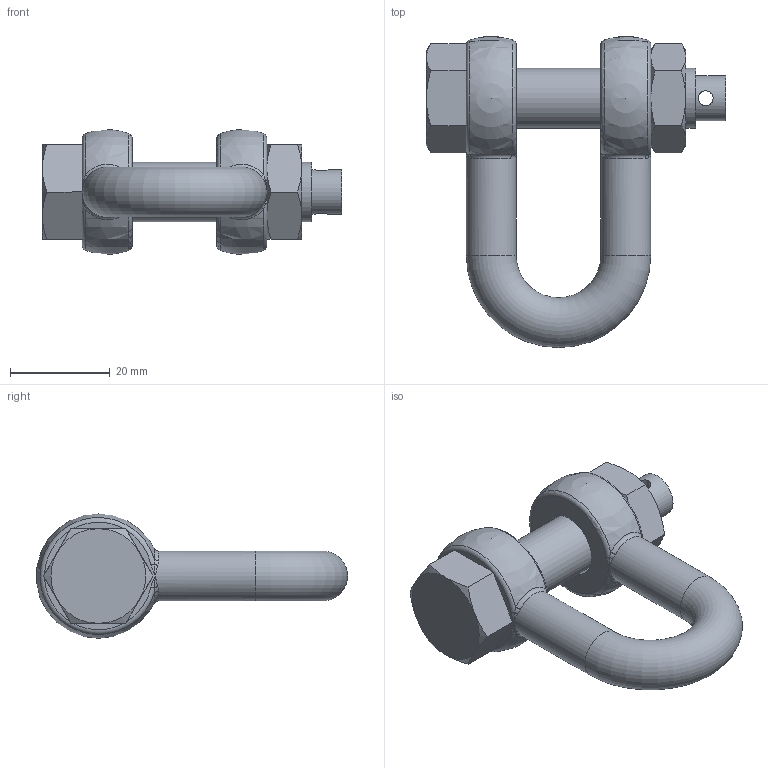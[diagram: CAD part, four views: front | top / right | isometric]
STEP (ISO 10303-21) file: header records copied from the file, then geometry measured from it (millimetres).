
FILE_DESCRIPTION(/* description */ (''),/* implementation_level */ '2;1');
FILE_NAME(/* name */ 'C:\Users\D\Documents\Inventor\HP\吊具\シャックル\SB_2\sb_10.stp',/* time_stamp */ '2024-11-14T11:45:03+09:00',/* author */ ('D'),/* organization */ (''),/* preprocessor_version */ 'ST-DEVELOPER v18',/* originating_system */ 'Autodesk Inventor 2020',/* authorisation */ '');
FILE_SCHEMA (('AUTOMOTIVE_DESIGN { 1 0 10303 214 3 1 1 }'));
Length unit declared in the file: millimetre
Products named in the file (3): sb_10; sb_6; sb_pin_10
Assembly tree (2 placements, depth 2):
  sb_10
    sb_6
    sb_pin_10
Bounding box: 60 x 62.41 x 25 mm (x, y, z)
Volume: 22413.3 mm3; surface area: 9558 mm2
Topology: 2 solids, 2 shells, 83 faces, 217 edges, 121 vertices
Faces by surface type: bspline 24, plane 22, cone 18, torus 9, cylinder 8, sphere 2
Full cylindrical faces by diameter (mm): 3 x1, 9 x1, 10 x2, 12 x2, 13 x2
Entity records: 3164 total; most frequent: CARTESIAN_POINT 1331, ORIENTED_EDGE 394, DIRECTION 333, EDGE_CURVE 197, AXIS2_PLACEMENT_3D 153, VERTEX_POINT 121, EDGE_LOOP 92, CIRCLE 89
